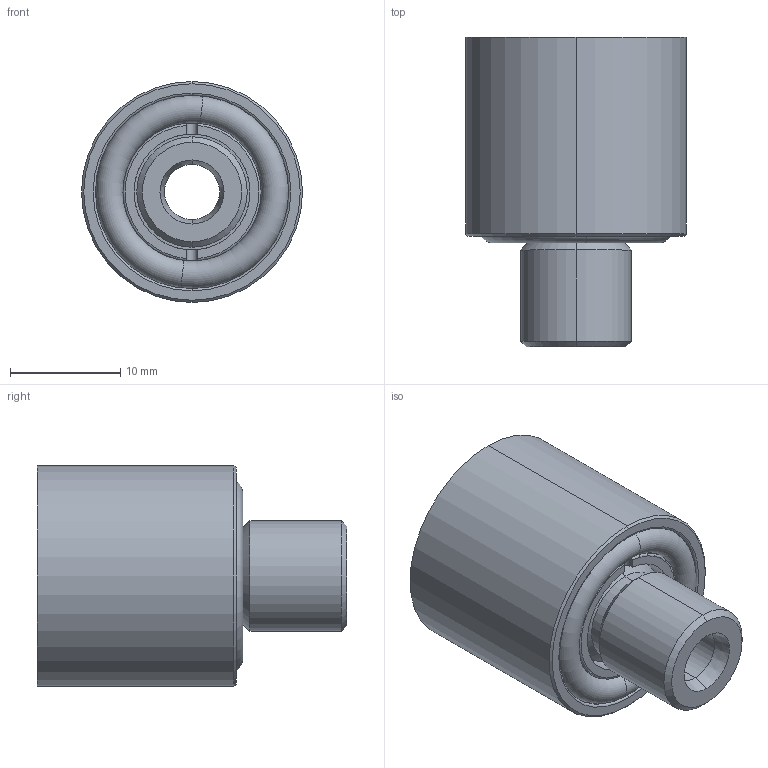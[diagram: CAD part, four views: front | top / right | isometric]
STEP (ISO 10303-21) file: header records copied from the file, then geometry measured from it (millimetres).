
FILE_DESCRIPTION (( 'STEP AP214' ), '1' );
FILE_NAME ('SA200518.STEP', '2013-06-27T09:43:15', ( '' ), ( '' ), 'SwSTEP 2.0', 'SolidWorks 2011', '' );
FILE_SCHEMA (( 'AUTOMOTIVE_DESIGN' ));
Length unit declared in the file: millimetre
Products named in the file (5): inserto SA200518; 8SA200618_acabado; JT12.5x2.5; tapa SA20; SA200518
Assembly tree (4 placements, depth 2):
  SA200518
    inserto SA200518
    8SA200618_acabado
    JT12.5x2.5
    tapa SA20
Bounding box: 20 x 28 x 20 mm (x, y, z)
Volume: 5618.9 mm3; surface area: 4352.4 mm2
Topology: 4 solids, 4 shells, 101 faces, 234 edges, 143 vertices
Faces by surface type: cylinder 30, cone 29, plane 28, torus 14
Entity records: 3393 total; most frequent: CARTESIAN_POINT 832, DIRECTION 521, ORIENTED_EDGE 468, EDGE_CURVE 234, AXIS2_PLACEMENT_3D 218, VERTEX_POINT 143, EDGE_LOOP 111, CIRCLE 110
